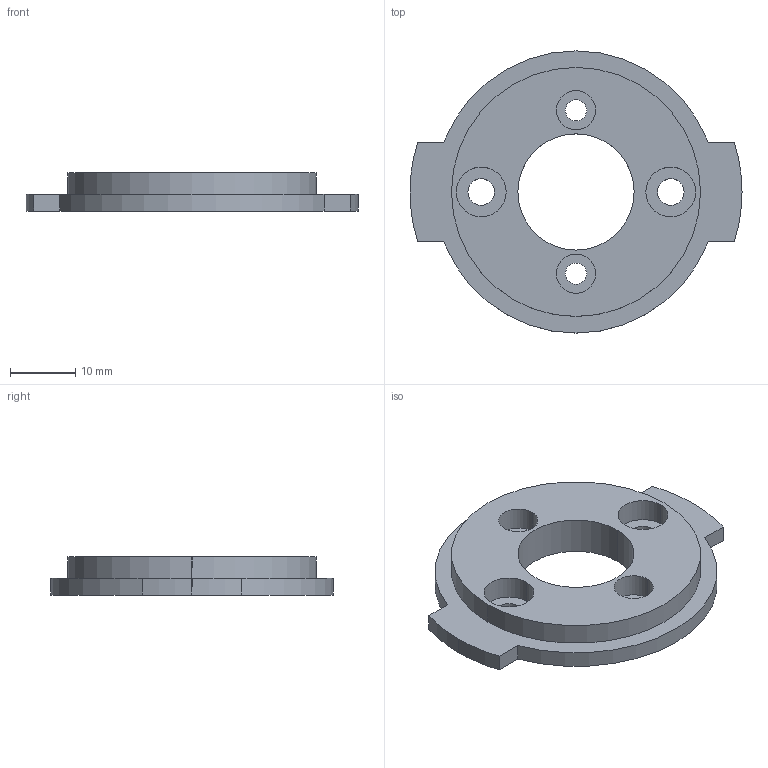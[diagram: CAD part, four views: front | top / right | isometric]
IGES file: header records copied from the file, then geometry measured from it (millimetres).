
Global section: file name: C:\Documents and Settings\Administrator\Desktop\Transfer Temp\motorinterfaceplate.igs; native system: AutoDesk Inventor R2.0 ; preprocessor: AutoDesk Inventor Iges Exporter R2.0; author: No Author specified; organization: No Organization specified; date: 20011207.163757; units: inch
Bounding box: 50.8 x 43.18 x 5.84 mm (x, y, z)
Surface area: 4099.5 mm2 (no closed solid volume)
Topology: 0 solids, 0 shells, 37 faces, 180 edges, 180 vertices
Faces by surface type: bspline 29, revolution 8
